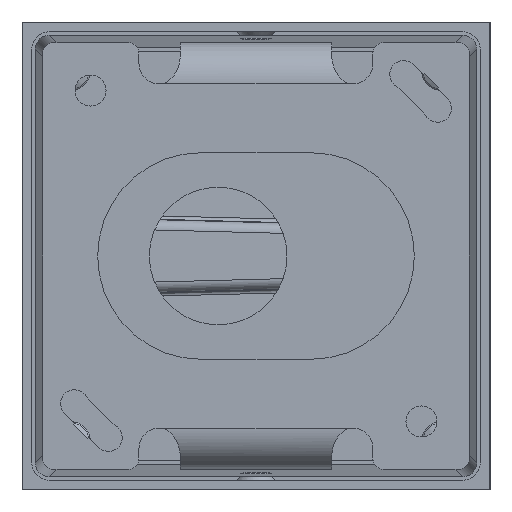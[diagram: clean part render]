
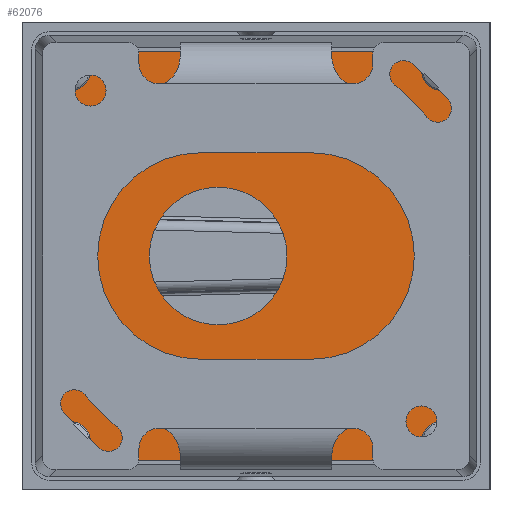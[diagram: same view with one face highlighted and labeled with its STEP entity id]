
A CAD part, left-side view. The second image highlights one B-rep face of the part: STEP entity #62076.
In plain terms, the highlighted planar face has unit normal (-1, 0, 0).
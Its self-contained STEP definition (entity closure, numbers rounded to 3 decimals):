
#61733=CARTESIAN_POINT('',(97.5,3974.,0.));
#61734=DIRECTION('',(1.,0.,0.));
#61735=DIRECTION('',(0.,0.,1.));
#61736=AXIS2_PLACEMENT_3D('',#61733,#61734,#61735);
#61738=CARTESIAN_POINT('',(97.5,3974.,0.));
#61739=DIRECTION('',(1.,0.,0.));
#61740=DIRECTION('',(0.,0.,-1.));
#61741=AXIS2_PLACEMENT_3D('',#61738,#61739,#61740);
#61743=DIRECTION('',(0.,0.,1.));
#61744=VECTOR('',#61743,54.);
#61745=CARTESIAN_POINT('',(97.5,3998.2,-27.));
#61746=LINE('',#61745,#61744);
#61747=CARTESIAN_POINT('',(97.5,3995.5,27.));
#61748=DIRECTION('',(1.,0.,0.));
#61749=DIRECTION('',(0.,1.,0.));
#61750=AXIS2_PLACEMENT_3D('',#61747,#61748,#61749);
#61752=DIRECTION('',(0.,-1.,0.));
#61753=VECTOR('',#61752,54.);
#61754=CARTESIAN_POINT('',(97.5,3995.5,29.7));
#61755=LINE('',#61754,#61753);
#61756=CARTESIAN_POINT('',(97.5,3941.5,27.));
#61757=DIRECTION('',(1.,0.,0.));
#61758=DIRECTION('',(0.,0.,1.));
#61759=AXIS2_PLACEMENT_3D('',#61756,#61757,#61758);
#61761=DIRECTION('',(0.,0.,-1.));
#61762=VECTOR('',#61761,54.);
#61763=CARTESIAN_POINT('',(97.5,3938.8,27.));
#61764=LINE('',#61763,#61762);
#61765=CARTESIAN_POINT('',(97.5,3941.5,-27.));
#61766=DIRECTION('',(1.,0.,0.));
#61767=DIRECTION('',(0.,-1.,0.));
#61768=AXIS2_PLACEMENT_3D('',#61765,#61766,#61767);
#61770=DIRECTION('',(0.,1.,0.));
#61771=VECTOR('',#61770,54.);
#61772=CARTESIAN_POINT('',(97.5,3941.5,-29.7));
#61773=LINE('',#61772,#61771);
#61774=CARTESIAN_POINT('',(97.5,3995.5,-27.));
#61775=DIRECTION('',(1.,0.,0.));
#61776=DIRECTION('',(0.,0.,-1.));
#61777=AXIS2_PLACEMENT_3D('',#61774,#61775,#61776);
#61779=CARTESIAN_POINT('',(97.5,3941.675,-26.825));
#61780=DIRECTION('',(-1.,0.,0.));
#61781=DIRECTION('',(0.,-1.,0.));
#61782=AXIS2_PLACEMENT_3D('',#61779,#61780,#61781);
#61784=CARTESIAN_POINT('',(97.5,3941.675,-26.825));
#61785=DIRECTION('',(-1.,0.,0.));
#61786=DIRECTION('',(0.,1.,0.));
#61787=AXIS2_PLACEMENT_3D('',#61784,#61785,#61786);
#61789=CARTESIAN_POINT('',(97.5,3941.675,26.825));
#61790=DIRECTION('',(-1.,0.,0.));
#61791=DIRECTION('',(0.,0.,-1.));
#61792=AXIS2_PLACEMENT_3D('',#61789,#61790,#61791);
#61794=CARTESIAN_POINT('',(97.5,3941.675,26.825));
#61795=DIRECTION('',(-1.,0.,0.));
#61796=DIRECTION('',(0.,0.,1.));
#61797=AXIS2_PLACEMENT_3D('',#61794,#61795,#61796);
#61799=CARTESIAN_POINT('',(97.5,3995.325,-26.825));
#61800=DIRECTION('',(-1.,0.,0.));
#61801=DIRECTION('',(0.,0.,-1.));
#61802=AXIS2_PLACEMENT_3D('',#61799,#61800,#61801);
#61804=CARTESIAN_POINT('',(97.5,3995.325,-26.825));
#61805=DIRECTION('',(-1.,0.,0.));
#61806=DIRECTION('',(0.,0.,1.));
#61807=AXIS2_PLACEMENT_3D('',#61804,#61805,#61806);
#61809=CARTESIAN_POINT('',(97.5,3995.325,26.825));
#61810=DIRECTION('',(-1.,0.,0.));
#61811=DIRECTION('',(0.,-1.,0.));
#61812=AXIS2_PLACEMENT_3D('',#61809,#61810,#61811);
#61814=CARTESIAN_POINT('',(97.5,3995.325,26.825));
#61815=DIRECTION('',(-1.,0.,0.));
#61816=DIRECTION('',(0.,1.,0.));
#61817=AXIS2_PLACEMENT_3D('',#61814,#61815,#61816);
#61819=CARTESIAN_POINT('',(97.5,3986.,17.5));
#61820=DIRECTION('',(-1.,0.,0.));
#61821=DIRECTION('',(0.,-1.,0.));
#61822=AXIS2_PLACEMENT_3D('',#61819,#61820,#61821);
#61824=CARTESIAN_POINT('',(97.5,3986.,17.5));
#61825=DIRECTION('',(-1.,0.,0.));
#61826=DIRECTION('',(0.,1.,0.));
#61827=AXIS2_PLACEMENT_3D('',#61824,#61825,#61826);
#61829=CARTESIAN_POINT('',(97.5,3986.,-17.5));
#61830=DIRECTION('',(-1.,0.,0.));
#61831=DIRECTION('',(0.,-1.,0.));
#61832=AXIS2_PLACEMENT_3D('',#61829,#61830,#61831);
#61834=CARTESIAN_POINT('',(97.5,3986.,-17.5));
#61835=DIRECTION('',(-1.,0.,0.));
#61836=DIRECTION('',(0.,1.,0.));
#61837=AXIS2_PLACEMENT_3D('',#61834,#61835,#61836);
#61843=CARTESIAN_POINT('',(97.5,3998.2,-27.));
#61844=CARTESIAN_POINT('',(97.5,3998.2,27.));
#61845=VERTEX_POINT('',#61843);
#61846=VERTEX_POINT('',#61844);
#61847=CARTESIAN_POINT('',(97.5,3941.5,-29.7));
#61848=CARTESIAN_POINT('',(97.5,3938.8,-27.));
#61849=VERTEX_POINT('',#61847);
#61850=VERTEX_POINT('',#61848);
#61863=CARTESIAN_POINT('',(97.5,3995.5,-29.7));
#61864=VERTEX_POINT('',#61863);
#61865=CARTESIAN_POINT('',(97.5,3938.8,27.));
#61866=CARTESIAN_POINT('',(97.5,3941.5,29.7));
#61867=VERTEX_POINT('',#61865);
#61868=VERTEX_POINT('',#61866);
#61869=CARTESIAN_POINT('',(97.5,3995.5,29.7));
#61870=VERTEX_POINT('',#61869);
#61875=CARTESIAN_POINT('',(97.5,3995.325,-25.375));
#61876=CARTESIAN_POINT('',(97.5,3995.325,-28.275));
#61877=VERTEX_POINT('',#61875);
#61878=VERTEX_POINT('',#61876);
#61887=CARTESIAN_POINT('',(97.5,3941.675,25.375));
#61888=CARTESIAN_POINT('',(97.5,3941.675,28.275));
#61889=VERTEX_POINT('',#61887);
#61890=VERTEX_POINT('',#61888);
#61899=CARTESIAN_POINT('',(97.5,3984.4,17.5));
#61900=CARTESIAN_POINT('',(97.5,3987.6,17.5));
#61901=VERTEX_POINT('',#61899);
#61902=VERTEX_POINT('',#61900);
#61907=CARTESIAN_POINT('',(97.5,3987.6,-17.5));
#61908=CARTESIAN_POINT('',(97.5,3984.4,-17.5));
#61909=VERTEX_POINT('',#61907);
#61910=VERTEX_POINT('',#61908);
#61911=CARTESIAN_POINT('',(97.5,3974.,10.));
#61912=CARTESIAN_POINT('',(97.5,3974.,-10.));
#61913=VERTEX_POINT('',#61911);
#61914=VERTEX_POINT('',#61912);
#61919=CARTESIAN_POINT('',(97.5,3940.225,-26.825));
#61920=CARTESIAN_POINT('',(97.5,3943.125,-26.825));
#61921=VERTEX_POINT('',#61919);
#61922=VERTEX_POINT('',#61920);
#61923=CARTESIAN_POINT('',(97.5,3993.875,26.825));
#61924=CARTESIAN_POINT('',(97.5,3996.775,26.825));
#61925=VERTEX_POINT('',#61923);
#61926=VERTEX_POINT('',#61924);
#62012=CARTESIAN_POINT('',(97.5,3968.5,0.));
#62013=DIRECTION('',(1.,0.,0.));
#62014=DIRECTION('',(0.,-1.,0.));
#62015=AXIS2_PLACEMENT_3D('',#62012,#62013,#62014);
#62016=PLANE('',#62015);
#62018=ORIENTED_EDGE('',*,*,#62017,.T.);
#62020=ORIENTED_EDGE('',*,*,#62019,.T.);
#62022=ORIENTED_EDGE('',*,*,#62021,.T.);
#62024=ORIENTED_EDGE('',*,*,#62023,.T.);
#62026=ORIENTED_EDGE('',*,*,#62025,.T.);
#62028=ORIENTED_EDGE('',*,*,#62027,.T.);
#62030=ORIENTED_EDGE('',*,*,#62029,.T.);
#62032=ORIENTED_EDGE('',*,*,#62031,.T.);
#62033=EDGE_LOOP('',(#62018,#62020,#62022,#62024,#62026,#62028,#62030,#62032));
#62034=FACE_OUTER_BOUND('',#62033,.F.);
#62035=ORIENTED_EDGE('',*,*,#62002,.F.);
#62037=ORIENTED_EDGE('',*,*,#62036,.F.);
#62038=EDGE_LOOP('',(#62035,#62037));
#62039=FACE_BOUND('',#62038,.F.);
#62041=ORIENTED_EDGE('',*,*,#62040,.T.);
#62043=ORIENTED_EDGE('',*,*,#62042,.T.);
#62044=EDGE_LOOP('',(#62041,#62043));
#62045=FACE_BOUND('',#62044,.F.);
#62047=ORIENTED_EDGE('',*,*,#62046,.T.);
#62049=ORIENTED_EDGE('',*,*,#62048,.T.);
#62050=EDGE_LOOP('',(#62047,#62049));
#62051=FACE_BOUND('',#62050,.F.);
#62053=ORIENTED_EDGE('',*,*,#62052,.T.);
#62055=ORIENTED_EDGE('',*,*,#62054,.T.);
#62056=EDGE_LOOP('',(#62053,#62055));
#62057=FACE_BOUND('',#62056,.F.);
#62059=ORIENTED_EDGE('',*,*,#62058,.T.);
#62061=ORIENTED_EDGE('',*,*,#62060,.T.);
#62062=EDGE_LOOP('',(#62059,#62061));
#62063=FACE_BOUND('',#62062,.F.);
#62065=ORIENTED_EDGE('',*,*,#62064,.T.);
#62067=ORIENTED_EDGE('',*,*,#62066,.T.);
#62068=EDGE_LOOP('',(#62065,#62067));
#62069=FACE_BOUND('',#62068,.F.);
#62071=ORIENTED_EDGE('',*,*,#62070,.T.);
#62073=ORIENTED_EDGE('',*,*,#62072,.T.);
#62074=EDGE_LOOP('',(#62071,#62073));
#62075=FACE_BOUND('',#62074,.F.);
#62076=ADVANCED_FACE('',(#62034,#62039,#62045,#62051,#62057,#62063,#62069,
#62075),#62016,.F.);
#61737=CIRCLE('',#61736,10.);
#61742=CIRCLE('',#61741,10.);
#61751=CIRCLE('',#61750,2.7);
#61760=CIRCLE('',#61759,2.7);
#61769=CIRCLE('',#61768,2.7);
#61778=CIRCLE('',#61777,2.7);
#61783=CIRCLE('',#61782,1.45);
#61788=CIRCLE('',#61787,1.45);
#61793=CIRCLE('',#61792,1.45);
#61798=CIRCLE('',#61797,1.45);
#61803=CIRCLE('',#61802,1.45);
#61808=CIRCLE('',#61807,1.45);
#61813=CIRCLE('',#61812,1.45);
#61818=CIRCLE('',#61817,1.45);
#61823=CIRCLE('',#61822,1.6);
#61828=CIRCLE('',#61827,1.6);
#61833=CIRCLE('',#61832,1.6);
#61838=CIRCLE('',#61837,1.6);
#62002=EDGE_CURVE('',#61913,#61914,#61737,.T.);
#62017=EDGE_CURVE('',#61845,#61846,#61746,.T.);
#62019=EDGE_CURVE('',#61846,#61870,#61751,.T.);
#62021=EDGE_CURVE('',#61870,#61868,#61755,.T.);
#62023=EDGE_CURVE('',#61868,#61867,#61760,.T.);
#62025=EDGE_CURVE('',#61867,#61850,#61764,.T.);
#62027=EDGE_CURVE('',#61850,#61849,#61769,.T.);
#62029=EDGE_CURVE('',#61849,#61864,#61773,.T.);
#62031=EDGE_CURVE('',#61864,#61845,#61778,.T.);
#62036=EDGE_CURVE('',#61914,#61913,#61742,.T.);
#62040=EDGE_CURVE('',#61921,#61922,#61783,.T.);
#62042=EDGE_CURVE('',#61922,#61921,#61788,.T.);
#62046=EDGE_CURVE('',#61889,#61890,#61793,.T.);
#62048=EDGE_CURVE('',#61890,#61889,#61798,.T.);
#62052=EDGE_CURVE('',#61878,#61877,#61803,.T.);
#62054=EDGE_CURVE('',#61877,#61878,#61808,.T.);
#62058=EDGE_CURVE('',#61925,#61926,#61813,.T.);
#62060=EDGE_CURVE('',#61926,#61925,#61818,.T.);
#62064=EDGE_CURVE('',#61901,#61902,#61823,.T.);
#62066=EDGE_CURVE('',#61902,#61901,#61828,.T.);
#62070=EDGE_CURVE('',#61910,#61909,#61833,.T.);
#62072=EDGE_CURVE('',#61909,#61910,#61838,.T.);
